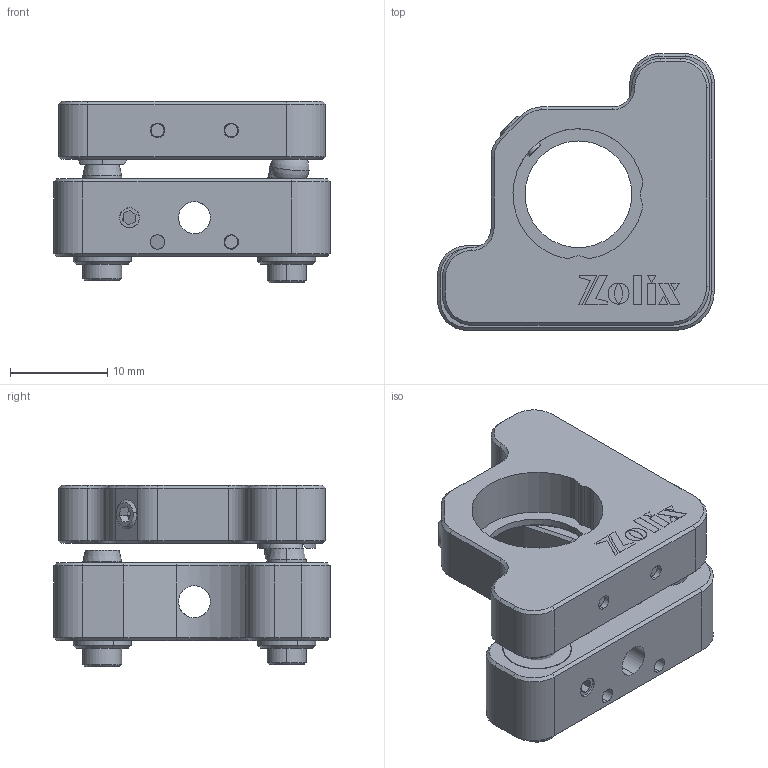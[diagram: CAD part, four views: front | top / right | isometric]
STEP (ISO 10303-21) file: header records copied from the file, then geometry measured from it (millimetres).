
FILE_DESCRIPTION (( 'STEP AP203' ), '1' );
FILE_NAME ('NMM12.7.step', '2019-05-09T09:00:16', ( '' ), ( '' ), 'SwSTEP 2.0', 'SolidWorks 2016', '' );
FILE_SCHEMA (( 'CONFIG_CONTROL_DESIGN' ));
Length unit declared in the file: millimetre
Products named in the file (1): NMM12.7
Bounding box: 28.5 x 28.5 x 18.7 mm (x, y, z)
Surface area: 4900.8 mm2 (no closed solid volume)
Topology: 0 solids, 26 shells, 297 faces, 1026 edges, 732 vertices
Faces by surface type: plane 140, cylinder 100, cone 55, sphere 2
Entity records: 11688 total; most frequent: CARTESIAN_POINT 2770, DIRECTION 1844, ORIENTED_EDGE 1624, EDGE_CURVE 1017, VERTEX_POINT 729, LINE 690, VECTOR 690, AXIS2_PLACEMENT_3D 577
